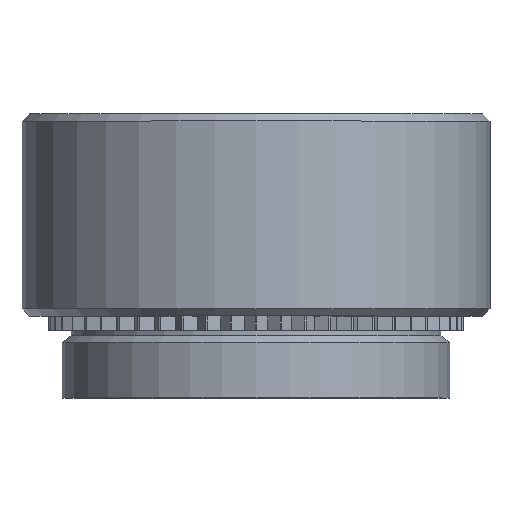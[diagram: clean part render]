
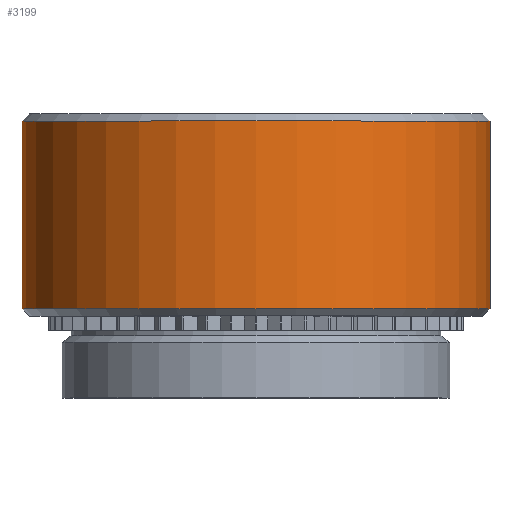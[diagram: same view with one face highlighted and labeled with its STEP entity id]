
A CAD part, top view. The second image highlights one B-rep face of the part: STEP entity #3199.
In plain terms, the highlighted cylindrical face has radius 6.325 mm (diameter 12.65 mm), a full revolution.
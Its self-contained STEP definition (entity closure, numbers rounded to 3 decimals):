
#127=CYLINDRICAL_SURFACE('',#3394,6.325);
#184=FACE_OUTER_BOUND('',#353,.T.);
#353=EDGE_LOOP('',(#2214,#2215,#2216,#2217,#2218,#2219));
#526=LINE('',#4643,#899);
#899=VECTOR('',#3695,6.325);
#1271=CIRCLE('',#3391,6.325);
#1272=CIRCLE('',#3392,6.325);
#1274=CIRCLE('',#3395,6.325);
#1275=CIRCLE('',#3396,6.325);
#1390=VERTEX_POINT('',#4631);
#1391=VERTEX_POINT('',#4632);
#1393=VERTEX_POINT('',#4639);
#1394=VERTEX_POINT('',#4640);
#1717=EDGE_CURVE('',#1390,#1391,#1271,.T.);
#1718=EDGE_CURVE('',#1391,#1390,#1272,.T.);
#1721=EDGE_CURVE('',#1393,#1394,#1274,.T.);
#1722=EDGE_CURVE('',#1394,#1393,#1275,.T.);
#1723=EDGE_CURVE('',#1394,#1391,#526,.T.);
#2214=ORIENTED_EDGE('',*,*,#1721,.F.);
#2215=ORIENTED_EDGE('',*,*,#1722,.F.);
#2216=ORIENTED_EDGE('',*,*,#1723,.T.);
#2217=ORIENTED_EDGE('',*,*,#1717,.F.);
#2218=ORIENTED_EDGE('',*,*,#1718,.F.);
#2219=ORIENTED_EDGE('',*,*,#1723,.F.);
#3199=ADVANCED_FACE('',(#184),#127,.T.);
#3391=AXIS2_PLACEMENT_3D('',#4633,#3682,#3683);
#3392=AXIS2_PLACEMENT_3D('',#4634,#3684,#3685);
#3394=AXIS2_PLACEMENT_3D('',#4638,#3689,#3690);
#3395=AXIS2_PLACEMENT_3D('',#4641,#3691,#3692);
#3396=AXIS2_PLACEMENT_3D('',#4642,#3693,#3694);
#3682=DIRECTION('center_axis',(0.,-1.,0.));
#3683=DIRECTION('ref_axis',(1.,0.,0.));
#3684=DIRECTION('center_axis',(0.,-1.,0.));
#3685=DIRECTION('ref_axis',(1.,0.,0.));
#3689=DIRECTION('center_axis',(0.,1.,0.));
#3690=DIRECTION('ref_axis',(-1.,0.,0.));
#3691=DIRECTION('center_axis',(0.,1.,0.));
#3692=DIRECTION('ref_axis',(1.,0.,0.));
#3693=DIRECTION('center_axis',(0.,1.,0.));
#3694=DIRECTION('ref_axis',(1.,0.,0.));
#3695=DIRECTION('',(0.,-1.,0.));
#4631=CARTESIAN_POINT('',(-6.325,2.41,0.));
#4632=CARTESIAN_POINT('',(6.325,2.41,0.));
#4633=CARTESIAN_POINT('Origin',(0.,2.41,0.));
#4634=CARTESIAN_POINT('Origin',(0.,2.41,0.));
#4638=CARTESIAN_POINT('Origin',(0.,4.945,0.));
#4639=CARTESIAN_POINT('',(-6.325,7.48,0.));
#4640=CARTESIAN_POINT('',(6.325,7.48,0.));
#4641=CARTESIAN_POINT('Origin',(0.,7.48,0.));
#4642=CARTESIAN_POINT('Origin',(0.,7.48,0.));
#4643=CARTESIAN_POINT('',(6.325,4.945,0.));
